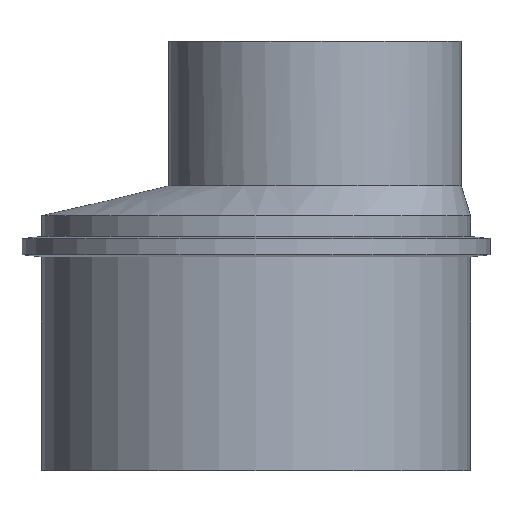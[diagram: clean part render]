
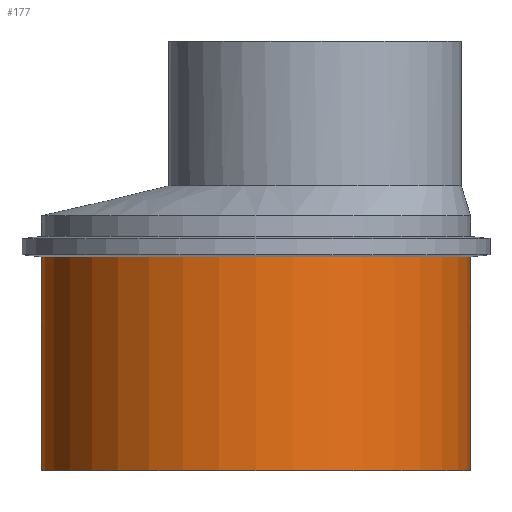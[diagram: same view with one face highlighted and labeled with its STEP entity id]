
A CAD part, front view. The second image highlights one B-rep face of the part: STEP entity #177.
In plain terms, the highlighted cylindrical face has radius 55 mm (diameter 110 mm), a full revolution.
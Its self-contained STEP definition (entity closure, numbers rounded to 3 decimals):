
#26=FACE_BOUND($,#57,.T.);
#40=FACE_OUTER_BOUND($,#56,.T.);
#56=EDGE_LOOP($,(#141));
#57=EDGE_LOOP($,(#142));
#66=CIRCLE($,#188,55.);
#78=CIRCLE($,#205,55.);
#82=VERTEX_POINT($,#271);
#94=VERTEX_POINT($,#340);
#98=EDGE_CURVE($,#82,#82,#66,.T.);
#112=EDGE_CURVE($,#94,#94,#78,.T.);
#141=ORIENTED_EDGE($,*,*,#98,.T.);
#142=ORIENTED_EDGE($,*,*,#112,.F.);
#154=CYLINDRICAL_SURFACE($,#204,55.);
#177=ADVANCED_FACE($,(#40,#26),#154,.T.);
#188=AXIS2_PLACEMENT_3D($,#272,#220,#221);
#204=AXIS2_PLACEMENT_3D($,#339,#252,#253);
#205=AXIS2_PLACEMENT_3D($,#341,#254,#255);
#220=DIRECTION('center_axis',(0.,0.,-1.));
#221=DIRECTION('ref_axis',(-1.,0.,0.));
#252=DIRECTION('center_axis',(0.,0.,1.));
#253=DIRECTION('ref_axis',(-1.,0.,0.));
#254=DIRECTION('center_axis',(0.,0.,-1.));
#255=DIRECTION('ref_axis',(-1.,0.,0.));
#271=CARTESIAN_POINT('',(-55.,0.,54.799));
#272=CARTESIAN_POINT('Origin',(0.,0.,54.799));
#339=CARTESIAN_POINT('Origin',(0.,0.,0.));
#340=CARTESIAN_POINT('',(55.,0.,0.));
#341=CARTESIAN_POINT('Origin',(0.,0.,0.));
